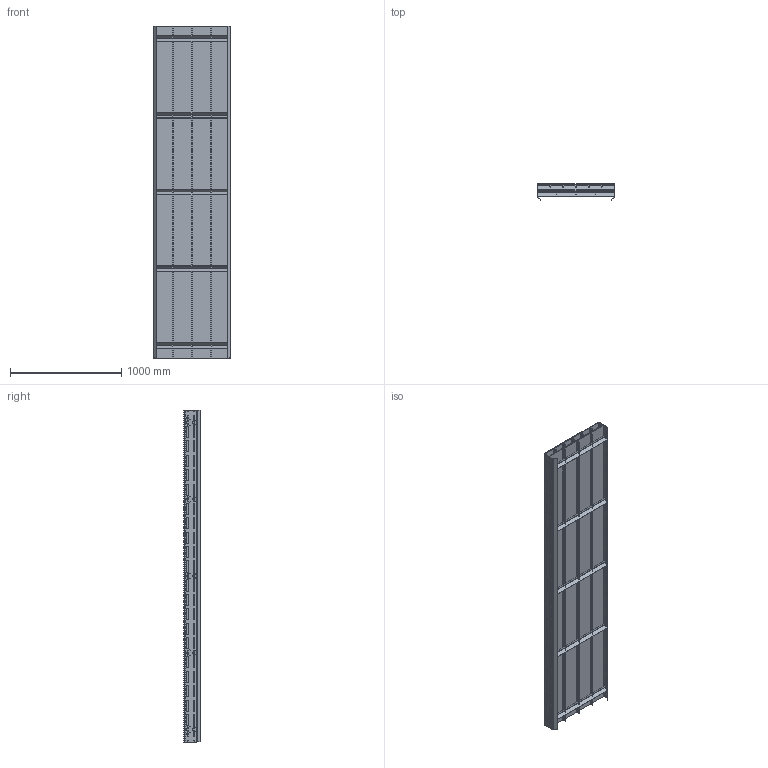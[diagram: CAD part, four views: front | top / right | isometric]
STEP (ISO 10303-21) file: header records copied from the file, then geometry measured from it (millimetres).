
FILE_DESCRIPTION (( 'STEP AP214' ), '1' );
FILE_NAME ('03.102S700.N FS-700-MTS2-100.INOX straight section L=2990.STEP', '2025-02-11T10:30:36', ( '' ), ( '' ), 'SwSTEP 2.0', 'SolidWorks 2024', '' );
FILE_SCHEMA (( 'AUTOMOTIVE_DESIGN' ));
Length unit declared in the file: millimetre
Products named in the file (1): 03.102S700.N FS-700-MTS2-100.INOX straight section L=2990
Bounding box: 701.5 x 145.63 x 2990 mm (x, y, z)
Volume: 44044094.6 mm3; surface area: 14442655.1 mm2
Topology: 24 solids, 24 shells, 1608 faces, 4680 edges, 3120 vertices
Faces by surface type: cylinder 930, plane 678
Entity records: 55406 total; most frequent: DIRECTION 9750, CARTESIAN_POINT 9433, ORIENTED_EDGE 9360, EDGE_CURVE 4680, AXIS2_PLACEMENT_3D 3469, VERTEX_POINT 3120, LINE 2812, VECTOR 2812
